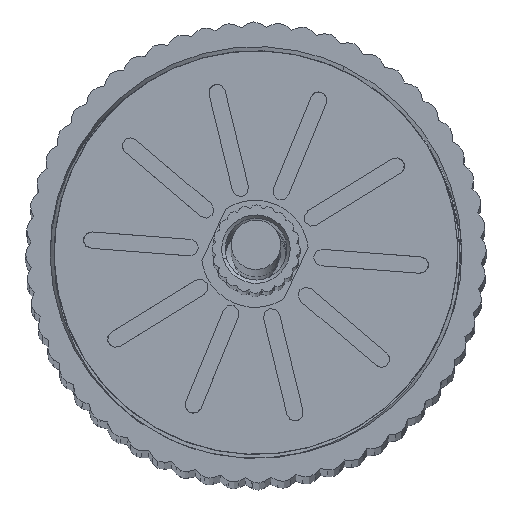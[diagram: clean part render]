
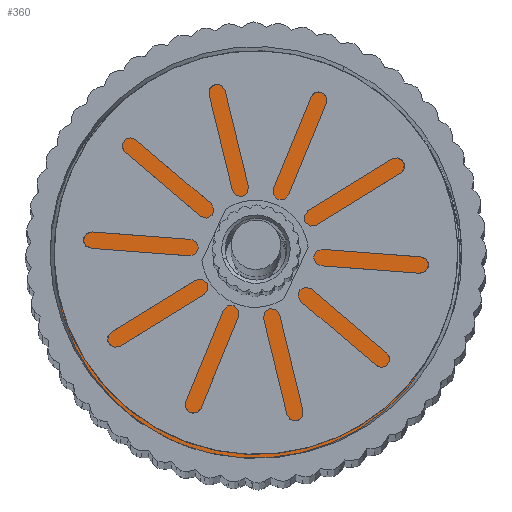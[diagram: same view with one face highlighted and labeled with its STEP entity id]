
A CAD part, top view. The second image highlights one B-rep face of the part: STEP entity #360.
In plain terms, the highlighted planar face has unit normal (0, 0, 1).
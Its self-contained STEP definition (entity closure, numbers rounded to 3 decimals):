
#15=FACE_BOUND('',#1457,.T.);
#360=ADVANCED_FACE('',(#906,#15),#8932,.T.);
#906=FACE_OUTER_BOUND('',#1456,.T.);
#1456=EDGE_LOOP('',(#2169,#2170));
#1457=EDGE_LOOP('',(#2171,#2172));
#2169=ORIENTED_EDGE('',*,*,#5069,.T.);
#2170=ORIENTED_EDGE('',*,*,#5050,.F.);
#2171=ORIENTED_EDGE('',*,*,#5059,.T.);
#2172=ORIENTED_EDGE('',*,*,#5067,.T.);
#5050=EDGE_CURVE('',#7991,#7992,#6502,.T.);
#5059=EDGE_CURVE('',#8001,#7999,#6506,.T.);
#5067=EDGE_CURVE('',#7999,#8001,#6511,.T.);
#5069=EDGE_CURVE('',#7991,#7992,#6513,.T.);
#6502=(
BOUNDED_CURVE()
B_SPLINE_CURVE(2,(#10851,#10852,#10853,#10854,#10855),.UNSPECIFIED.,.F.,
 .F.)
B_SPLINE_CURVE_WITH_KNOTS((3,2,3),(0.,48.8,97.6),.UNSPECIFIED.)
CURVE()
GEOMETRIC_REPRESENTATION_ITEM()
RATIONAL_B_SPLINE_CURVE((1.,0.707,1.,0.707,1.))
REPRESENTATION_ITEM('')
);
#6506=(
BOUNDED_CURVE()
B_SPLINE_CURVE(2,(#10881,#10882,#10883,#10884,#10885),.UNSPECIFIED.,.F.,
 .F.)
B_SPLINE_CURVE_WITH_KNOTS((3,2,3),(-20.4,-10.2,0.),.UNSPECIFIED.)
CURVE()
GEOMETRIC_REPRESENTATION_ITEM()
RATIONAL_B_SPLINE_CURVE((1.,0.707,1.,0.707,1.))
REPRESENTATION_ITEM('')
);
#6511=(
BOUNDED_CURVE()
B_SPLINE_CURVE(2,(#10912,#10913,#10914,#10915,#10916),.UNSPECIFIED.,.F.,
 .F.)
B_SPLINE_CURVE_WITH_KNOTS((3,2,3),(-20.4,-10.2,0.),.UNSPECIFIED.)
CURVE()
GEOMETRIC_REPRESENTATION_ITEM()
RATIONAL_B_SPLINE_CURVE((1.,0.707,1.,0.707,1.))
REPRESENTATION_ITEM('')
);
#6513=(
BOUNDED_CURVE()
B_SPLINE_CURVE(2,(#10922,#10923,#10924,#10925,#10926),.UNSPECIFIED.,.F.,
 .F.)
B_SPLINE_CURVE_WITH_KNOTS((3,2,3),(-97.6,-48.8,0.),.UNSPECIFIED.)
CURVE()
GEOMETRIC_REPRESENTATION_ITEM()
RATIONAL_B_SPLINE_CURVE((1.,0.707,1.,0.707,1.))
REPRESENTATION_ITEM('')
);
#7991=VERTEX_POINT('',#10839);
#7992=VERTEX_POINT('',#10840);
#7999=VERTEX_POINT('',#10847);
#8001=VERTEX_POINT('',#10849);
#8932=PLANE('',#9419);
#9419=AXIS2_PLACEMENT_3D('',#10799,#9868,$);
#9868=DIRECTION('',(0.,0.,1.));
#10799=CARTESIAN_POINT('',(249.413,39.601,21.149));
#10839=CARTESIAN_POINT('',(273.842,22.714,21.149));
#10840=CARTESIAN_POINT('',(253.084,-21.451,21.149));
#10847=CARTESIAN_POINT('',(265.632,5.247,21.149));
#10849=CARTESIAN_POINT('',(261.294,-3.984,21.149));
#10851=CARTESIAN_POINT('',(273.842,22.714,21.149));
#10852=CARTESIAN_POINT('',(295.925,12.335,21.149));
#10853=CARTESIAN_POINT('',(285.546,-9.748,21.149));
#10854=CARTESIAN_POINT('',(275.167,-31.83,21.149));
#10855=CARTESIAN_POINT('',(253.084,-21.451,21.149));
#10881=CARTESIAN_POINT('',(261.294,-3.984,21.149));
#10882=CARTESIAN_POINT('',(256.678,-1.815,21.149));
#10883=CARTESIAN_POINT('',(258.848,2.801,21.149));
#10884=CARTESIAN_POINT('',(261.017,7.416,21.149));
#10885=CARTESIAN_POINT('',(265.632,5.247,21.149));
#10912=CARTESIAN_POINT('',(265.632,5.247,21.149));
#10913=CARTESIAN_POINT('',(270.248,3.077,21.149));
#10914=CARTESIAN_POINT('',(268.079,-1.538,21.149));
#10915=CARTESIAN_POINT('',(265.909,-6.154,21.149));
#10916=CARTESIAN_POINT('',(261.294,-3.984,21.149));
#10922=CARTESIAN_POINT('',(273.842,22.714,21.149));
#10923=CARTESIAN_POINT('',(251.759,33.093,21.149));
#10924=CARTESIAN_POINT('',(241.381,11.01,21.149));
#10925=CARTESIAN_POINT('',(231.002,-11.073,21.149));
#10926=CARTESIAN_POINT('',(253.084,-21.451,21.149));
